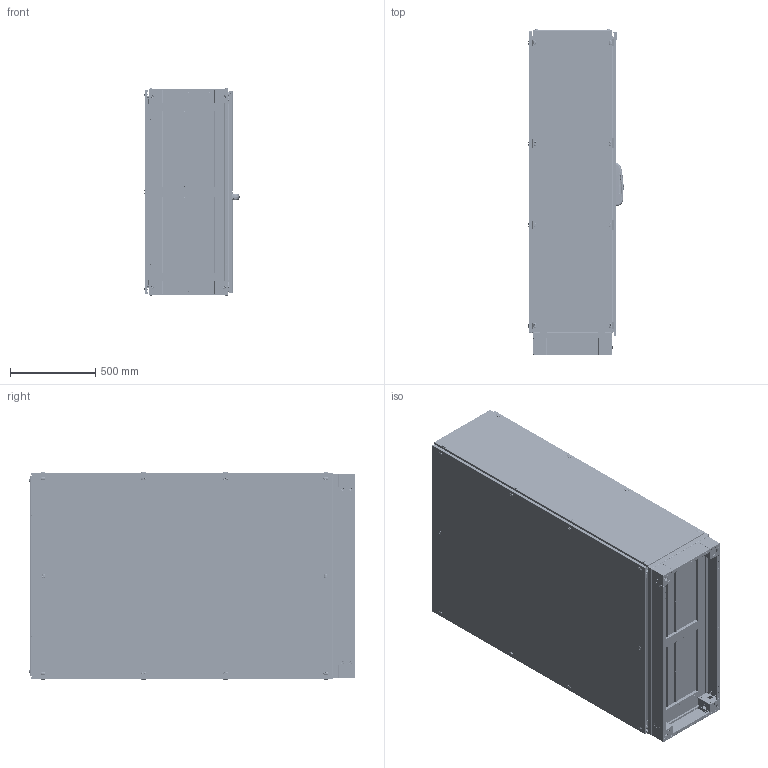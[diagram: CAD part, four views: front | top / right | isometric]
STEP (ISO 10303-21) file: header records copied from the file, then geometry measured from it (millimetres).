
FILE_DESCRIPTION (( 'STEP AP203' ), '1' );
FILE_NAME ('712.185 1200x1800x500.STEP', '2020-04-07T19:30:04', ( '' ), ( '' ), 'SwSTEP 2.0', 'SolidWorks 2019', '' );
FILE_SCHEMA (( 'CONFIG_CONTROL_DESIGN' ));
Length unit declared in the file: millimetre
Products named in the file (161): Teos-Neo 3mm MOUNTING PLATE_TEOS MP 1200x1800; 36 2018-2; M6 HAVÞA PLASTÝK CÝVATA; BAZA KÖÞES_SOL; pan head cross recess screw_iso_ISO 7045 - M5 x 10 - Z --- 10C; on citaVER3 teos26-12 2018-2_1200; TEOS ÇÝFT KAPAK sað 2020_1200x1800; PB 14.0004 M6 HAVÞA PLASTÝK CÝVATA; external tooth lock washer_am_B18.21.2M-External Tooth Lock Washers_AM8; delikli profil cerceve 2018-2_1200x1800; Montaj PlakAsi aaaaa 3mm_PP 12.0109 1200x1800; socket button head cap screw_am_B18.3.4M - 12 x 1.75 x 30 SBHCS --N; V2 -2011 DT BAZA KAPAGI ON_PP 12.0048 - 1200; M6 KAFES SOMU2015; TEOS-NEO MP Sol Dayama; prevailing torque nut style 1 insert_din_DIN EN ISO 7040 - M6 - N; k2-30 2018-2; kapali dikey profilkenetli_ita oluklu10-aaaaaaaaaaaa-1_500; hex screw_am_B18.6.7M - M12 x 1.75 x 20 Indented HHMS --20N; M8 KAFES SOMUN_m8; BAZA KÖÞES_SAG; MP 18.7631 Kayar Parça; M8 Kare Somun_m8; M5 DÝKEY PROFÝL RONDELA; pan cross head_am_B18.6.7M - M5 x 0.8 x 10 Type I Cross Recessed PHMS --10N; Teos-Neo MP Sað Braketi; MP 18.7631; yan arka kapak baglantý saci orta; kaucuk eskiye uyarlama 10.2016 2018-2; MP 11.0195 montaj plakasý m8takoz1VER3 NEO26-12; k2-27 2018-2; 03-TABAN SACI SURGU_PP 12.0033 - 1200; Teos-Neo MP Sol Braket Montaj_Standart Pozisyon; k2-34 2018-2; TEOS iskelet_1200x1800x500; 8502-001-M6_kapal-_1 2018-2; Ust Kapak 2009-10 gecme askili vidalý 1.5 akb rev_PP 12.0016 1200X500; YP1189-1-M6_kapal-_1 2018-2; V3 -2011 DT BAZA KAPAGI yan_PP 12.0050 - 500; yan Kapak 09-2014 800 der ust tek hv r3_PP 12.0064 - 1800X500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
Assembly tree (462 placements, depth 7):
  36 2018-2
  712.185 1200x1800x500
    TEOS iskelet_1200x1800x500
      kapali dikey profilkenetli_ita oluklu10-aaaaaaaaaaaa-1_1800  x4
      kapali dikey profilkenetli_ita oluklu10-aaaaaaaaaaaa-1_500  x4
      kapali dikey profilkenetli_ita oluklu10-aaaaaaaaaaaa-1_1200 gen  x4
      L KOSE DESTEKorj1  x8
      kose rondela kabartmaSIZ 10  x15
      kose rondela kabartmaSIZ 12
      MP 11.0140 TEOS ALUMINYUM KOSE APPROVED 16.08.2010  x8
      M5 DÝKEY PROFÝL RONDELA  x16
      percinli taban-vidalý kapak-kose pls yok_701.250-120X50 ALT
        03-taban genislik percinli 04 - 2012 100-120_PP 12.0021 - 1200  x2
        03taban derinlik percinli_PP 12.0024 - 500  x2
        03-KOSE PUNT_PP 12.0027
        03-KOSE PUNT
        Mirror03-KOSE PUNT  x2
        TEOS V2 BAZA S嵞TEM廆1200X500
          BAZA KÖÞES_SAG
            V2 BAZA KOSESI2015_100
            BAZA SISTEMIV2-6 baza kapaðý201550x40_TEKPAN LOGOLU
            M6 KAFES SOMU2015
              kafes somun kafes
              somu
            M6 KAFES SOMU2015
              kafes somun kafes
              somu
          V2 -2011 DT BAZA KAPAGI ON_PP 12.0048 - 1200  x2
          BAZA KÖÞES_SOL
            V2 BAZA KOSESI2015_100
            BAZA SISTEMIV2-6 baza kapaðý201550x40
            M6 KAFES SOMU2015
              kafes somun kafes
              somu
            M6 KAFES SOMU2015
              kafes somun kafes
              somu
          BAZA KÖÞES_SAG
            V2 BAZA KOSESI2015_100
            BAZA SISTEMIV2-6 baza kapaðý201550x40_TEKPAN LOGOLU
            M6 KAFES SOMU2015
              kafes somun kafes
              somu
            M6 KAFES SOMU2015
              kafes somun kafes
              somu
          BAZA KÖÞES_SOL
            V2 BAZA KOSESI2015_100
            BAZA SISTEMIV2-6 baza kapaðý201550x40
            M6 KAFES SOMU2015
              kafes somun kafes
              somu
            M6 KAFES SOMU2015
              kafes somun kafes
              somu
          V3 -2011 DT BAZA KAPAGI yan_PP 12.0050 - 500  x2
          flat head screw_am_B18.6.7M - M6 x 1.0 x 20 Type I Cross Recessed FHMS --20N  x8
        03taban derinlik orta  percinli 04-2012_PP 12.0054 -500
        03-TABAN SACI SURGU_PP 12.0033 - 1200  x2
        03-TABAN SACI U1 04-2012_PP 12.0043 - 1200-75  x2
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Bounding box: 559.22 x 1917.1 x 1218.87 mm (x, y, z)
Volume: 27530628.7 mm3; surface area: 28752730.7 mm2
Topology: 398 solids, 438 shells, 58931 faces, 160381 edges, 101990 vertices
Faces by surface type: plane 35758, cylinder 17262, bspline 2714, torus 1263, cone 1189, sphere 745
Entity records: 819475 total; most frequent: CARTESIAN_POINT 335882, ORIENTED_EDGE 98880, DIRECTION 89646, EDGE_CURVE 49440, VECTOR 31904, LINE 31904, VERTEX_POINT 31596, AXIS2_PLACEMENT_3D 28871
